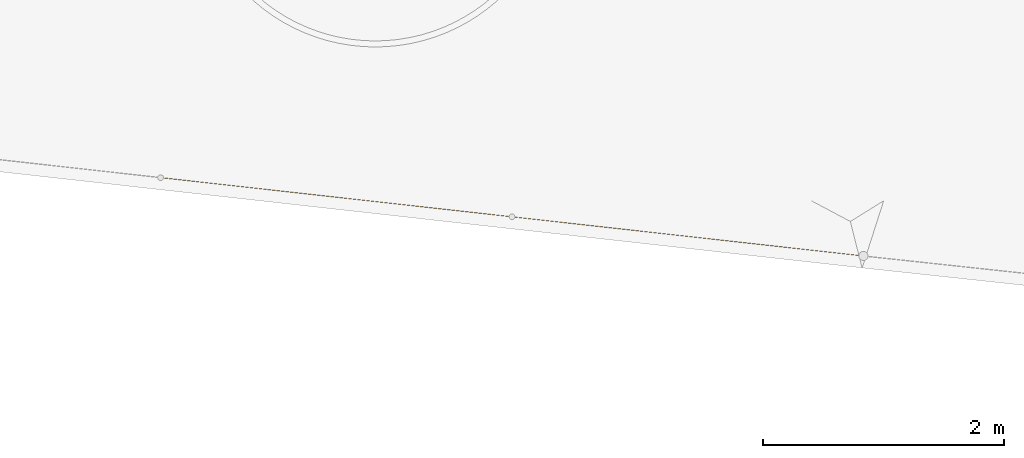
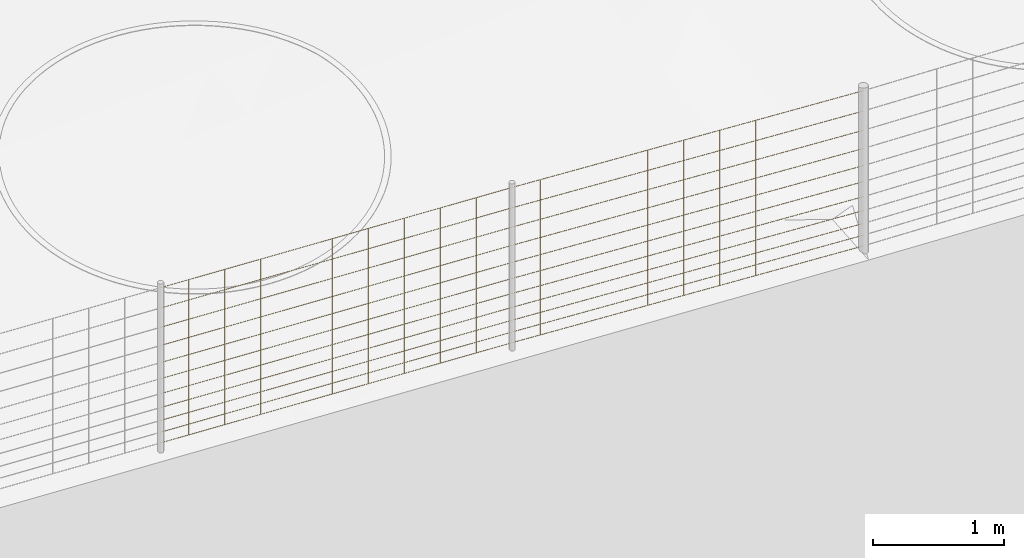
# Not in any storey, part 37 of 72: 2 railings.
"""IFC4 model written with IfcOpenShell, lengths in metres."""

from ifc_helpers import new_model, si_unit, direction, frame, origin_with_axes, place, context, subcontext, project, spatial, polygons, material, element, save


model = new_model("IFC4")

# Units and contexts
model_context = context("Model", 3, precision=1e-05, world=origin_with_axes(), true_north=direction((0.0, 1.0)))
body_context = subcontext(model_context, "Body", "Model", "MODEL_VIEW")
ifc_project = project(units=[si_unit("AREAUNIT", "SQUARE_METRE"), si_unit("VOLUMEUNIT", "CUBIC_METRE"), si_unit("LENGTHUNIT", "METRE")], contexts=[model_context])

# Site
site_placement = place(None, origin_with_axes())
site = spatial("IfcSite", under=ifc_project, at=site_placement, Name="Lares · Rua das Mercês · artigo 4771")

# Railings
ifc_material = material(Name="Aço galvanizado / Stahl verzinkt", Category="steel")
railing_1_placement = place(site_placement, frame((0.0, 0.0, 0.0), z_axis=(0.0, 0.0, 1.0), x_axis=(1.0, -1.03767253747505e-17, 0.0)))
element("IfcRailing", 1, at=railing_1_placement, inside=site, material=ifc_material, Name="Vedação · rede ovelheira 1.023", ObjectType="SHEEP_WIRE_FENCE", PredefinedType="USERDEFINED", context=body_context, shape_type="Tessellation", body=[
    polygons([(35.1256546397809, -1.01600360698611, 13.0768517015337), (35.1255292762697, -1.01749892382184, 13.0753522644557), (35.1253222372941, -1.0189851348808, 13.0768517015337), (35.1254476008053, -1.01748981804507, 13.0783511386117), (32.208987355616, -0.690832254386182, 12.9964278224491), (32.2088619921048, -0.692327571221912, 12.9949283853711), (32.2086549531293, -0.693813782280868, 12.9964278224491), (32.2087803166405, -0.692318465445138, 12.9979272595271), (35.1256546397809, -1.01600360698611, 13.1768517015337), (35.1255292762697, -1.01749892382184, 13.1753522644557), (35.1253222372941, -1.0189851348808, 13.1768517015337), (35.1254476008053, -1.01748981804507, 13.1783511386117), (32.208987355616, -0.690832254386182, 13.0964278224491), (32.2088619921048, -0.692327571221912, 13.0949283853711), (32.2086549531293, -0.693813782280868, 13.0964278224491), (32.2087803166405, -0.692318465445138, 13.0979272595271), (35.1256546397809, -1.01600360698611, 13.2868517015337), (35.1255292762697, -1.01749892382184, 13.2853522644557), (35.1253222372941, -1.0189851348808, 13.2868517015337), (35.1254476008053, -1.01748981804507, 13.2883511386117), (32.208987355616, -0.690832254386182, 13.2064278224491), (32.2088619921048, -0.692327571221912, 13.2049283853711), (32.2086549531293, -0.693813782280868, 13.2064278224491), (32.2087803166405, -0.692318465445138, 13.2079272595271), (35.1256546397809, -1.01600360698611, 13.4068517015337), (35.1255292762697, -1.01749892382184, 13.4053522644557), (35.1253222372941, -1.0189851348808, 13.4068517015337), (35.1254476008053, -1.01748981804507, 13.4083511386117), (32.208987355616, -0.690832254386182, 13.3264278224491), (32.2088619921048, -0.692327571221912, 13.3249283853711), (32.2086549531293, -0.693813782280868, 13.3264278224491), (32.2087803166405, -0.692318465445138, 13.3279272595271), (35.1256546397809, -1.01600360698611, 13.5368517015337), (35.1255292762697, -1.01749892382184, 13.5353522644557), (35.1253222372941, -1.0189851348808, 13.5368517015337), (35.1254476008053, -1.01748981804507, 13.5383511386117), (32.208987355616, -0.690832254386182, 13.4564278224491), (32.2088619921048, -0.692327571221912, 13.4549283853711), (32.2086549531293, -0.693813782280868, 13.4564278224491), (32.2087803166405, -0.692318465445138, 13.4579272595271), (35.1256546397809, -1.01600360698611, 13.6768517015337), (35.1255292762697, -1.01749892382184, 13.6753522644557), (35.1253222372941, -1.0189851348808, 13.6768517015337), (35.1254476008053, -1.01748981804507, 13.6783511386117), (32.208987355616, -0.690832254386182, 13.5964278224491), (32.2088619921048, -0.692327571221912, 13.5949283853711), (32.2086549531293, -0.693813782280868, 13.5964278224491), (32.2087803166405, -0.692318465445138, 13.5979272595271), (35.1256546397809, -1.01600360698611, 13.8268517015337), (35.1255292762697, -1.01749892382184, 13.8253522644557), (35.1253222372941, -1.0189851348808, 13.8268517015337), (35.1254476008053, -1.01748981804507, 13.8283511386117), (32.208987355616, -0.690832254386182, 13.7464278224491), (32.2088619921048, -0.692327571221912, 13.7449283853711), (32.2086549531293, -0.693813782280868, 13.7464278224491), (32.2087803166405, -0.692318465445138, 13.7479272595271), (35.1256546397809, -1.01600360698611, 13.9868517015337), (35.1255292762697, -1.01749892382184, 13.9853522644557), (35.1253222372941, -1.0189851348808, 13.9868517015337), (35.1254476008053, -1.01748981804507, 13.9883511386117), (32.208987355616, -0.690832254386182, 13.9064278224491), (32.2088619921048, -0.692327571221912, 13.9049283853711), (32.2086549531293, -0.693813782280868, 13.9064278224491), (32.2087803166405, -0.692318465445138, 13.9079272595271), (35.1256546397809, -1.01600360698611, 14.1568517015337), (35.1255292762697, -1.01749892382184, 14.1553522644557), (35.1253222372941, -1.0189851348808, 14.1568517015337), (35.1254476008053, -1.01748981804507, 14.1583511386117), (32.208987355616, -0.690832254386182, 14.0764278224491), (32.2088619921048, -0.692327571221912, 14.0749283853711), (32.2086549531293, -0.693813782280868, 14.0764278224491), (32.2087803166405, -0.692318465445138, 14.0779272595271), (35.1256546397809, -1.01600360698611, 14.3368517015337), (35.1255292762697, -1.01749892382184, 14.3353522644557), (35.1253222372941, -1.0189851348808, 14.3368517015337), (35.1254476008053, -1.01748981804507, 14.3383511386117), (32.208987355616, -0.690832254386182, 14.2564278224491), (32.2088619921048, -0.692327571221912, 14.2549283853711), (32.2086549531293, -0.693813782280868, 14.2564278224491), (32.2087803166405, -0.692318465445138, 14.2579272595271), (35.1256546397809, -1.01600360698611, 14.5268517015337), (35.1255292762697, -1.01749892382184, 14.5253522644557), (35.1253222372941, -1.0189851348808, 14.5268517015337), (35.1254476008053, -1.01748981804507, 14.5283511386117), (32.208987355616, -0.690832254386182, 14.4464278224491), (32.2088619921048, -0.692327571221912, 14.4449283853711), (32.2086549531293, -0.693813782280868, 14.4464278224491), (32.2087803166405, -0.692318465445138, 14.4479272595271), (34.8273356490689, -0.982754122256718, 13.0686304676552), (34.8258356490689, -0.984254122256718, 13.0686304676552), (34.8273356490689, -0.985754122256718, 13.0686304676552), (34.8288356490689, -0.984254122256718, 13.0686304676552), (34.8273356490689, -0.982754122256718, 14.5186304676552), (34.8258356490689, -0.984254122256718, 14.5186304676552), (34.8273356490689, -0.985754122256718, 14.5186304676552), (34.8288356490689, -0.984254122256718, 14.5186304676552), (34.5291828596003, -0.949513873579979, 13.0604092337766), (34.5276828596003, -0.951013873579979, 13.0604092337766), (34.5291828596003, -0.952513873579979, 13.0604092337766), (34.5306828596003, -0.951013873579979, 13.0604092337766), (34.5291828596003, -0.949513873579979, 14.5104092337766), (34.5276828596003, -0.951013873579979, 14.5104092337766), (34.5291828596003, -0.952513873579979, 14.5104092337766), (34.5306828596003, -0.951013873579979, 14.5104092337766), (34.2310300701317, -0.916273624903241, 13.0521879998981), (34.2295300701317, -0.917773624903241, 13.0521879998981), (34.2310300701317, -0.91927362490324, 13.0521879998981), (34.2325300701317, -0.917773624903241, 13.0521879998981), (34.2310300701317, -0.916273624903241, 14.5021879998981), (34.2295300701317, -0.917773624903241, 14.5021879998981), (34.2310300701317, -0.91927362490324, 14.5021879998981), (34.2325300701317, -0.917773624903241, 14.5021879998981), (33.9328772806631, -0.883033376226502, 13.0439667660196), (33.9313772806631, -0.884533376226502, 13.0439667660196), (33.9328772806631, -0.886033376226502, 13.0439667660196), (33.9343772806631, -0.884533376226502, 13.0439667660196), (33.9328772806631, -0.883033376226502, 14.4939667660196), (33.9313772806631, -0.884533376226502, 14.4939667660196), (33.9328772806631, -0.886033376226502, 14.4939667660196), (33.9343772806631, -0.884533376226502, 14.4939667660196), (33.6347244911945, -0.849793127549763, 13.0357455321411), (33.6332244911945, -0.851293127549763, 13.0357455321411), (33.6347244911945, -0.852793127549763, 13.0357455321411), (33.6362244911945, -0.851293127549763, 13.0357455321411), (33.6347244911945, -0.849793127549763, 14.4857455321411), (33.6332244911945, -0.851293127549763, 14.4857455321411), (33.6347244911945, -0.852793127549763, 14.4857455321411), (33.6362244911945, -0.851293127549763, 14.4857455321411), (33.3365717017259, -0.816552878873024, 13.0275242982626), (33.3350717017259, -0.818052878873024, 13.0275242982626), (33.3365717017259, -0.819552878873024, 13.0275242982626), (33.3380717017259, -0.818052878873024, 13.0275242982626), (33.3365717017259, -0.816552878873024, 14.4775242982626), (33.3350717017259, -0.818052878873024, 14.4775242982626), (33.3365717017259, -0.819552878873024, 14.4775242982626), (33.3380717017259, -0.818052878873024, 14.4775242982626), (33.0384189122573, -0.783312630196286, 13.019303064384), (33.0369189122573, -0.784812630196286, 13.019303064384), (33.0384189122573, -0.786312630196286, 13.019303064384), (33.0399189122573, -0.784812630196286, 13.019303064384), (33.0384189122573, -0.783312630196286, 14.469303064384), (33.0369189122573, -0.784812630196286, 14.469303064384), (33.0384189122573, -0.786312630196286, 14.469303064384), (33.0399189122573, -0.784812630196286, 14.469303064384), (32.7402661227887, -0.750072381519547, 13.0110818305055), (32.7387661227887, -0.751572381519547, 13.0110818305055), (32.7402661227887, -0.753072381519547, 13.0110818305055), (32.7417661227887, -0.751572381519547, 13.0110818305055), (32.7402661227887, -0.750072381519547, 14.4610818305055), (32.7387661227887, -0.751572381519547, 14.4610818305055), (32.7402661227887, -0.753072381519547, 14.4610818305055), (32.7417661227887, -0.751572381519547, 14.4610818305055), (32.4421133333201, -0.716832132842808, 13.002860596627), (32.4406133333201, -0.718332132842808, 13.002860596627), (32.4421133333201, -0.719832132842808, 13.002860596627), (32.4436133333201, -0.718332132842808, 13.002860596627), (32.4421133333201, -0.716832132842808, 14.452860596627), (32.4406133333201, -0.718332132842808, 14.452860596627), (32.4421133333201, -0.719832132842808, 14.452860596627), (32.4436133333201, -0.718332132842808, 14.452860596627)], [[[4, 3, 2, 1]], [[5, 6, 7, 8]], [[1, 2, 6, 5]], [[2, 3, 7, 6]], [[3, 4, 8, 7]], [[4, 1, 5, 8]], [[12, 11, 10, 9]], [[13, 14, 15, 16]], [[9, 10, 14, 13]], [[10, 11, 15, 14]], [[11, 12, 16, 15]], [[12, 9, 13, 16]], [[20, 19, 18, 17]], [[21, 22, 23, 24]], [[17, 18, 22, 21]], [[18, 19, 23, 22]], [[19, 20, 24, 23]], [[20, 17, 21, 24]], [[28, 27, 26, 25]], [[29, 30, 31, 32]], [[25, 26, 30, 29]], [[26, 27, 31, 30]], [[27, 28, 32, 31]], [[28, 25, 29, 32]], [[36, 35, 34, 33]], [[37, 38, 39, 40]], [[33, 34, 38, 37]], [[34, 35, 39, 38]], [[35, 36, 40, 39]], [[36, 33, 37, 40]], [[44, 43, 42, 41]], [[45, 46, 47, 48]], [[41, 42, 46, 45]], [[42, 43, 47, 46]], [[43, 44, 48, 47]], [[44, 41, 45, 48]], [[52, 51, 50, 49]], [[53, 54, 55, 56]], [[49, 50, 54, 53]], [[50, 51, 55, 54]], [[51, 52, 56, 55]], [[52, 49, 53, 56]], [[60, 59, 58, 57]], [[61, 62, 63, 64]], [[57, 58, 62, 61]], [[58, 59, 63, 62]], [[59, 60, 64, 63]], [[60, 57, 61, 64]], [[68, 67, 66, 65]], [[69, 70, 71, 72]], [[65, 66, 70, 69]], [[66, 67, 71, 70]], [[67, 68, 72, 71]], [[68, 65, 69, 72]], [[76, 75, 74, 73]], [[77, 78, 79, 80]], [[73, 74, 78, 77]], [[74, 75, 79, 78]], [[75, 76, 80, 79]], [[76, 73, 77, 80]], [[84, 83, 82, 81]], [[85, 86, 87, 88]], [[81, 82, 86, 85]], [[82, 83, 87, 86]], [[83, 84, 88, 87]], [[84, 81, 85, 88]], [[92, 91, 90, 89]], [[93, 94, 95, 96]], [[89, 90, 94, 93]], [[90, 91, 95, 94]], [[91, 92, 96, 95]], [[92, 89, 93, 96]], [[100, 99, 98, 97]], [[101, 102, 103, 104]], [[97, 98, 102, 101]], [[98, 99, 103, 102]], [[99, 100, 104, 103]], [[100, 97, 101, 104]], [[108, 107, 106, 105]], [[109, 110, 111, 112]], [[105, 106, 110, 109]], [[106, 107, 111, 110]], [[107, 108, 112, 111]], [[108, 105, 109, 112]], [[116, 115, 114, 113]], [[117, 118, 119, 120]], [[113, 114, 118, 117]], [[114, 115, 119, 118]], [[115, 116, 120, 119]], [[116, 113, 117, 120]], [[124, 123, 122, 121]], [[125, 126, 127, 128]], [[121, 122, 126, 125]], [[122, 123, 127, 126]], [[123, 124, 128, 127]], [[124, 121, 125, 128]], [[132, 131, 130, 129]], [[133, 134, 135, 136]], [[129, 130, 134, 133]], [[130, 131, 135, 134]], [[131, 132, 136, 135]], [[132, 129, 133, 136]], [[140, 139, 138, 137]], [[141, 142, 143, 144]], [[137, 138, 142, 141]], [[138, 139, 143, 142]], [[139, 140, 144, 143]], [[140, 137, 141, 144]], [[148, 147, 146, 145]], [[149, 150, 151, 152]], [[145, 146, 150, 149]], [[146, 147, 151, 150]], [[147, 148, 152, 151]], [[148, 145, 149, 152]], [[156, 155, 154, 153]], [[157, 158, 159, 160]], [[153, 154, 158, 157]], [[154, 155, 159, 158]], [[155, 156, 160, 159]], [[156, 153, 157, 160]]]),
])
railing_2_placement = place(site_placement, frame((0.0, 0.0, 0.0), z_axis=(0.0, 0.0, 1.0), x_axis=(1.0, -1.03767253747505e-17, 0.0)))
element("IfcRailing", 2, at=railing_2_placement, inside=site, material=ifc_material, Name="Vedação · rede ovelheira 1.024", ObjectType="SHEEP_WIRE_FENCE", PredefinedType="USERDEFINED", context=body_context, shape_type="Tessellation", body=[
    polygons([(32.208987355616, -0.690832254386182, 12.9964278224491), (32.2088779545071, -0.692329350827, 12.9949289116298), (32.2086549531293, -0.693813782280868, 12.9964278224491), (32.2087643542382, -0.692316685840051, 12.9979267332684), (29.2923200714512, -0.365660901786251, 12.8845290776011), (29.2922106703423, -0.367157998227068, 12.8830301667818), (29.2919876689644, -0.368642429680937, 12.8845290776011), (29.2920970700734, -0.36714533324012, 12.8860279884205), (32.208987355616, -0.690832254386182, 13.0964278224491), (32.2088779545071, -0.692329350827, 13.0949289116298), (32.2086549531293, -0.693813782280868, 13.0964278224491), (32.2087643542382, -0.692316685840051, 13.0979267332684), (29.2923200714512, -0.365660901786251, 12.9845290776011), (29.2922106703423, -0.367157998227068, 12.9830301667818), (29.2919876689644, -0.368642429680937, 12.9845290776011), (29.2920970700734, -0.36714533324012, 12.9860279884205), (32.208987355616, -0.690832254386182, 13.2064278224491), (32.2088779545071, -0.692329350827, 13.2049289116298), (32.2086549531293, -0.693813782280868, 13.2064278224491), (32.2087643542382, -0.692316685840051, 13.2079267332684), (29.2923200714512, -0.365660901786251, 13.0945290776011), (29.2922106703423, -0.367157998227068, 13.0930301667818), (29.2919876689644, -0.368642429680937, 13.0945290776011), (29.2920970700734, -0.36714533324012, 13.0960279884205), (32.208987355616, -0.690832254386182, 13.3264278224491), (32.2088779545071, -0.692329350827, 13.3249289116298), (32.2086549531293, -0.693813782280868, 13.3264278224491), (32.2087643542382, -0.692316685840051, 13.3279267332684), (29.2923200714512, -0.365660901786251, 13.2145290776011), (29.2922106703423, -0.367157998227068, 13.2130301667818), (29.2919876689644, -0.368642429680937, 13.2145290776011), (29.2920970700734, -0.36714533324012, 13.2160279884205), (32.208987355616, -0.690832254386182, 13.4564278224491), (32.2088779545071, -0.692329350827, 13.4549289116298), (32.2086549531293, -0.693813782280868, 13.4564278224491), (32.2087643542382, -0.692316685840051, 13.4579267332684), (29.2923200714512, -0.365660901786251, 13.3445290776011), (29.2922106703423, -0.367157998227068, 13.3430301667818), (29.2919876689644, -0.368642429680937, 13.3445290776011), (29.2920970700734, -0.36714533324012, 13.3460279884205), (32.208987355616, -0.690832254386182, 13.5964278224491), (32.2088779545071, -0.692329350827, 13.5949289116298), (32.2086549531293, -0.693813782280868, 13.5964278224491), (32.2087643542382, -0.692316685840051, 13.5979267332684), (29.2923200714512, -0.365660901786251, 13.4845290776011), (29.2922106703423, -0.367157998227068, 13.4830301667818), (29.2919876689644, -0.368642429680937, 13.4845290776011), (29.2920970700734, -0.36714533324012, 13.4860279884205), (32.208987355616, -0.690832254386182, 13.7464278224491), (32.2088779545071, -0.692329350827, 13.7449289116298), (32.2086549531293, -0.693813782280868, 13.7464278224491), (32.2087643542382, -0.692316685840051, 13.7479267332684), (29.2923200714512, -0.365660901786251, 13.6345290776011), (29.2922106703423, -0.367157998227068, 13.6330301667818), (29.2919876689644, -0.368642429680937, 13.6345290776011), (29.2920970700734, -0.36714533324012, 13.6360279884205), (32.208987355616, -0.690832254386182, 13.9064278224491), (32.2088779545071, -0.692329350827, 13.9049289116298), (32.2086549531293, -0.693813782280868, 13.9064278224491), (32.2087643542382, -0.692316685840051, 13.9079267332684), (29.2923200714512, -0.365660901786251, 13.7945290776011), (29.2922106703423, -0.367157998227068, 13.7930301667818), (29.2919876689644, -0.368642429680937, 13.7945290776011), (29.2920970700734, -0.36714533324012, 13.7960279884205), (32.208987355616, -0.690832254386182, 14.0764278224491), (32.2088779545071, -0.692329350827, 14.0749289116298), (32.2086549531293, -0.693813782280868, 14.0764278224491), (32.2087643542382, -0.692316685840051, 14.0779267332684), (29.2923200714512, -0.365660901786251, 13.9645290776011), (29.2922106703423, -0.367157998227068, 13.9630301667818), (29.2919876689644, -0.368642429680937, 13.9645290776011), (29.2920970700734, -0.36714533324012, 13.9660279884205), (32.208987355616, -0.690832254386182, 14.2564278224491), (32.2088779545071, -0.692329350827, 14.2549289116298), (32.2086549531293, -0.693813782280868, 14.2564278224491), (32.2087643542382, -0.692316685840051, 14.2579267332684), (29.2923200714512, -0.365660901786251, 14.1445290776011), (29.2922106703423, -0.367157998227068, 14.1430301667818), (29.2919876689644, -0.368642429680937, 14.1445290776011), (29.2920970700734, -0.36714533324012, 14.1460279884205), (32.208987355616, -0.690832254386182, 14.4464278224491), (32.2088779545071, -0.692329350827, 14.4449289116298), (32.2086549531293, -0.693813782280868, 14.4464278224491), (32.2087643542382, -0.692316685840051, 14.4479267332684), (29.2923200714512, -0.365660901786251, 14.3345290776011), (29.2922106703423, -0.367157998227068, 14.3330301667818), (29.2919876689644, -0.368642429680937, 14.3345290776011), (29.2920970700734, -0.36714533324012, 14.3360279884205), (31.9106683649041, -0.657582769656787, 12.984989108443), (31.9091683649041, -0.659082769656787, 12.984989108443), (31.9106683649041, -0.660582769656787, 12.984989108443), (31.9121683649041, -0.659082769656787, 12.984989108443), (31.9106683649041, -0.657582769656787, 14.434989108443), (31.9091683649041, -0.659082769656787, 14.434989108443), (31.9106683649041, -0.660582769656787, 14.434989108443), (31.9121683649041, -0.659082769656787, 14.434989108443), (31.6125155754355, -0.624342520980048, 12.9735503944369), (31.6110155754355, -0.625842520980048, 12.9735503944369), (31.6125155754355, -0.627342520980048, 12.9735503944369), (31.6140155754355, -0.625842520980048, 12.9735503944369), (31.6125155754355, -0.624342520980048, 14.4235503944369), (31.6110155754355, -0.625842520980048, 14.4235503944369), (31.6125155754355, -0.627342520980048, 14.4235503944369), (31.6140155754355, -0.625842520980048, 14.4235503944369), (31.3143627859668, -0.591102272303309, 12.9621116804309), (31.3128627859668, -0.592602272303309, 12.9621116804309), (31.3143627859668, -0.594102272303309, 12.9621116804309), (31.3158627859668, -0.592602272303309, 12.9621116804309), (31.3143627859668, -0.591102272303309, 14.4121116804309), (31.3128627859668, -0.592602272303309, 14.4121116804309), (31.3143627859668, -0.594102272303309, 14.4121116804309), (31.3158627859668, -0.592602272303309, 14.4121116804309), (31.0162099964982, -0.55786202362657, 12.9506729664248), (31.0147099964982, -0.55936202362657, 12.9506729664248), (31.0162099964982, -0.56086202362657, 12.9506729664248), (31.0177099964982, -0.55936202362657, 12.9506729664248), (31.0162099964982, -0.55786202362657, 14.4006729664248), (31.0147099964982, -0.55936202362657, 14.4006729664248), (31.0162099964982, -0.56086202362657, 14.4006729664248), (31.0177099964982, -0.55936202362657, 14.4006729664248), (30.7180572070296, -0.524621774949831, 12.9392342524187), (30.7165572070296, -0.526121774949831, 12.9392342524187), (30.7180572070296, -0.527621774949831, 12.9392342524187), (30.7195572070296, -0.526121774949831, 12.9392342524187), (30.7180572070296, -0.524621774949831, 14.3892342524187), (30.7165572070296, -0.526121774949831, 14.3892342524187), (30.7180572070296, -0.527621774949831, 14.3892342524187), (30.7195572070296, -0.526121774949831, 14.3892342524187), (30.419904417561, -0.491381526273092, 12.9277955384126), (30.418404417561, -0.492881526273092, 12.9277955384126), (30.419904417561, -0.494381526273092, 12.9277955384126), (30.421404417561, -0.492881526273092, 12.9277955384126), (30.419904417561, -0.491381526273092, 14.3777955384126), (30.418404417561, -0.492881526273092, 14.3777955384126), (30.419904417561, -0.494381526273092, 14.3777955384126), (30.421404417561, -0.492881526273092, 14.3777955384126), (30.1217516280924, -0.458141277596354, 12.9163568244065), (30.1202516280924, -0.459641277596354, 12.9163568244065), (30.1217516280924, -0.461141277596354, 12.9163568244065), (30.1232516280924, -0.459641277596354, 12.9163568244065), (30.1217516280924, -0.458141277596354, 14.3663568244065), (30.1202516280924, -0.459641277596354, 14.3663568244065), (30.1217516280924, -0.461141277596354, 14.3663568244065), (30.1232516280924, -0.459641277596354, 14.3663568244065), (29.8235988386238, -0.424901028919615, 12.9049181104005), (29.8220988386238, -0.426401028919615, 12.9049181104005), (29.8235988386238, -0.427901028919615, 12.9049181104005), (29.8250988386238, -0.426401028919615, 12.9049181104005), (29.8235988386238, -0.424901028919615, 14.3549181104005), (29.8220988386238, -0.426401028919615, 14.3549181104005), (29.8235988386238, -0.427901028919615, 14.3549181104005), (29.8250988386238, -0.426401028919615, 14.3549181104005), (29.5254460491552, -0.391660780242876, 12.8934793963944), (29.5239460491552, -0.393160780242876, 12.8934793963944), (29.5254460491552, -0.394660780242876, 12.8934793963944), (29.5269460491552, -0.393160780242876, 12.8934793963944), (29.5254460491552, -0.391660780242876, 14.3434793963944), (29.5239460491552, -0.393160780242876, 14.3434793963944), (29.5254460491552, -0.394660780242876, 14.3434793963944), (29.5269460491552, -0.393160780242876, 14.3434793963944)], [[[4, 3, 2, 1]], [[5, 6, 7, 8]], [[1, 2, 6, 5]], [[2, 3, 7, 6]], [[3, 4, 8, 7]], [[4, 1, 5, 8]], [[12, 11, 10, 9]], [[13, 14, 15, 16]], [[9, 10, 14, 13]], [[10, 11, 15, 14]], [[11, 12, 16, 15]], [[12, 9, 13, 16]], [[20, 19, 18, 17]], [[21, 22, 23, 24]], [[17, 18, 22, 21]], [[18, 19, 23, 22]], [[19, 20, 24, 23]], [[20, 17, 21, 24]], [[28, 27, 26, 25]], [[29, 30, 31, 32]], [[25, 26, 30, 29]], [[26, 27, 31, 30]], [[27, 28, 32, 31]], [[28, 25, 29, 32]], [[36, 35, 34, 33]], [[37, 38, 39, 40]], [[33, 34, 38, 37]], [[34, 35, 39, 38]], [[35, 36, 40, 39]], [[36, 33, 37, 40]], [[44, 43, 42, 41]], [[45, 46, 47, 48]], [[41, 42, 46, 45]], [[42, 43, 47, 46]], [[43, 44, 48, 47]], [[44, 41, 45, 48]], [[52, 51, 50, 49]], [[53, 54, 55, 56]], [[49, 50, 54, 53]], [[50, 51, 55, 54]], [[51, 52, 56, 55]], [[52, 49, 53, 56]], [[60, 59, 58, 57]], [[61, 62, 63, 64]], [[57, 58, 62, 61]], [[58, 59, 63, 62]], [[59, 60, 64, 63]], [[60, 57, 61, 64]], [[68, 67, 66, 65]], [[69, 70, 71, 72]], [[65, 66, 70, 69]], [[66, 67, 71, 70]], [[67, 68, 72, 71]], [[68, 65, 69, 72]], [[76, 75, 74, 73]], [[77, 78, 79, 80]], [[73, 74, 78, 77]], [[74, 75, 79, 78]], [[75, 76, 80, 79]], [[76, 73, 77, 80]], [[84, 83, 82, 81]], [[85, 86, 87, 88]], [[81, 82, 86, 85]], [[82, 83, 87, 86]], [[83, 84, 88, 87]], [[84, 81, 85, 88]], [[92, 91, 90, 89]], [[93, 94, 95, 96]], [[89, 90, 94, 93]], [[90, 91, 95, 94]], [[91, 92, 96, 95]], [[92, 89, 93, 96]], [[100, 99, 98, 97]], [[101, 102, 103, 104]], [[97, 98, 102, 101]], [[98, 99, 103, 102]], [[99, 100, 104, 103]], [[100, 97, 101, 104]], [[108, 107, 106, 105]], [[109, 110, 111, 112]], [[105, 106, 110, 109]], [[106, 107, 111, 110]], [[107, 108, 112, 111]], [[108, 105, 109, 112]], [[116, 115, 114, 113]], [[117, 118, 119, 120]], [[113, 114, 118, 117]], [[114, 115, 119, 118]], [[115, 116, 120, 119]], [[116, 113, 117, 120]], [[124, 123, 122, 121]], [[125, 126, 127, 128]], [[121, 122, 126, 125]], [[122, 123, 127, 126]], [[123, 124, 128, 127]], [[124, 121, 125, 128]], [[132, 131, 130, 129]], [[133, 134, 135, 136]], [[129, 130, 134, 133]], [[130, 131, 135, 134]], [[131, 132, 136, 135]], [[132, 129, 133, 136]], [[140, 139, 138, 137]], [[141, 142, 143, 144]], [[137, 138, 142, 141]], [[138, 139, 143, 142]], [[139, 140, 144, 143]], [[140, 137, 141, 144]], [[148, 147, 146, 145]], [[149, 150, 151, 152]], [[145, 146, 150, 149]], [[146, 147, 151, 150]], [[147, 148, 152, 151]], [[148, 145, 149, 152]], [[156, 155, 154, 153]], [[157, 158, 159, 160]], [[153, 154, 158, 157]], [[154, 155, 159, 158]], [[155, 156, 160, 159]], [[156, 153, 157, 160]]]),
])

save(model, "model.ifc")
